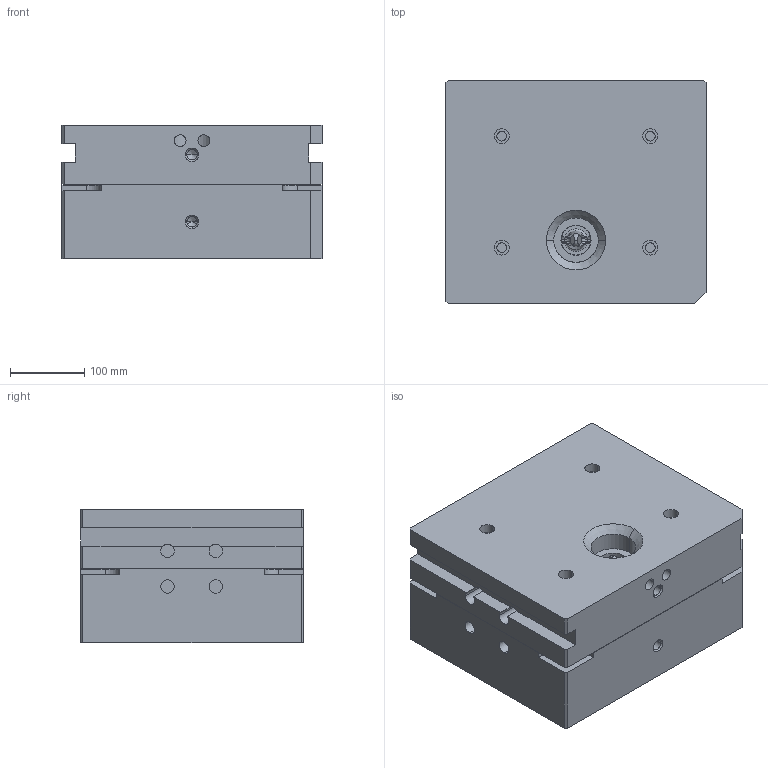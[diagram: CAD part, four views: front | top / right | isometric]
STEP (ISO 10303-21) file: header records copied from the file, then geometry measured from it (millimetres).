
FILE_DESCRIPTION((''),'2;1');
FILE_NAME('MFG0001_ASM','2017-11-13T',('Administrator'),(''),'CREO PARAMETRIC BY PTC INC, 2014190','CREO PARAMETRIC BY PTC INC, 2014190','');
FILE_SCHEMA(('CONFIG_CONTROL_DESIGN'));
Length unit declared in the file: millimetre
Products named in the file (7): MOLD_VOL_1; MOLD_VOL_2; MOLD_VOL_3; B; A; 2; MFG0001_ASM
Assembly tree (6 placements, depth 2):
  MFG0001_ASM
    MOLD_VOL_1
    MOLD_VOL_2
    MOLD_VOL_3
    B
    A
    2
Bounding box: 350 x 300 x 180.3 mm (x, y, z)
Volume: 17903314.6 mm3; surface area: 1126419 mm2
Topology: 7 solids, 7 shells, 990 faces, 2601 edges, 1637 vertices
Faces by surface type: plane 350, cylinder 292, cone 200, bspline 120, torus 26, sphere 2
Entity records: 35880 total; most frequent: CARTESIAN_POINT 11426, ORIENTED_EDGE 5174, DIRECTION 5037, EDGE_CURVE 2587, AXIS2_PLACEMENT_3D 1867, VERTEX_POINT 1637, VECTOR 1303, LINE 1303
